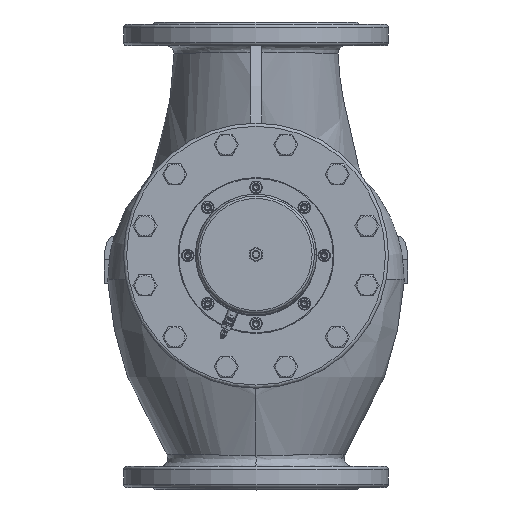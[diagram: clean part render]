
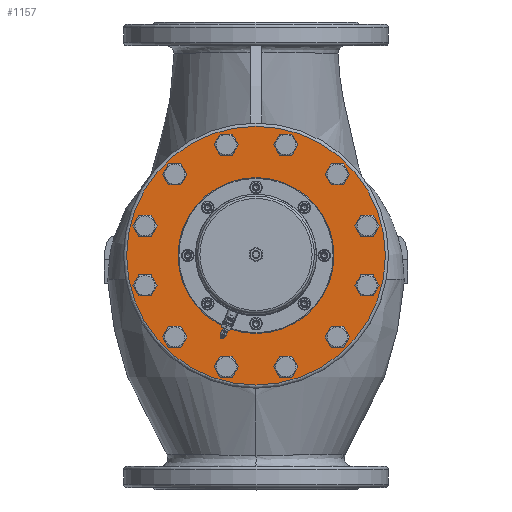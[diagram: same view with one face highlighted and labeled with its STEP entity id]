
A CAD part, top view. The second image highlights one B-rep face of the part: STEP entity #1157.
In plain terms, the highlighted planar face has unit normal (0, 0, 1).
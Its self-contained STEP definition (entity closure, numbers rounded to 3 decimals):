
#1157=ADVANCED_FACE('',(#18928,#18930,#18932,#18934,#18936,#18938,#18940,#18942,
#18944,#18946,#18948,#18950,#18952),#18954,.T.);
#18928=FACE_BOUND('',#18929,.T.);
#18929=EDGE_LOOP('',(#31032));
#18930=FACE_BOUND('',#18931,.T.);
#18931=EDGE_LOOP('',(#31033));
#18932=FACE_BOUND('',#18933,.T.);
#18933=EDGE_LOOP('',(#31034));
#18934=FACE_BOUND('',#18935,.T.);
#18935=EDGE_LOOP('',(#31035));
#18936=FACE_BOUND('',#18937,.T.);
#18937=EDGE_LOOP('',(#31036));
#18938=FACE_BOUND('',#18939,.T.);
#18939=EDGE_LOOP('',(#31037));
#18940=FACE_BOUND('',#18941,.T.);
#18941=EDGE_LOOP('',(#31038));
#18942=FACE_BOUND('',#18943,.T.);
#18943=EDGE_LOOP('',(#31039));
#18944=FACE_BOUND('',#18945,.T.);
#18945=EDGE_LOOP('',(#31040));
#18946=FACE_BOUND('',#18947,.T.);
#18947=EDGE_LOOP('',(#31041));
#18948=FACE_BOUND('',#18949,.T.);
#18949=EDGE_LOOP('',(#31042));
#18950=FACE_BOUND('',#18951,.T.);
#18951=EDGE_LOOP('',(#31043));
#18952=FACE_BOUND('',#18953,.T.);
#18953=EDGE_LOOP('',(#31044));
#18954=PLANE('',#18955);
#18955=AXIS2_PLACEMENT_3D('',#18956,#18957,#18958);
#18956=CARTESIAN_POINT('',(0.,0.,229.));
#18957=DIRECTION('',(0.,0.,1.));
#18958=DIRECTION('',(0.,1.,0.));
#31032=ORIENTED_EDGE('',*,*,#33183,.T.);
#31033=ORIENTED_EDGE('',*,*,#33181,.T.);
#31034=ORIENTED_EDGE('',*,*,#33180,.T.);
#31035=ORIENTED_EDGE('',*,*,#33179,.T.);
#31036=ORIENTED_EDGE('',*,*,#33178,.T.);
#31037=ORIENTED_EDGE('',*,*,#33177,.T.);
#31038=ORIENTED_EDGE('',*,*,#33176,.T.);
#31039=ORIENTED_EDGE('',*,*,#33175,.T.);
#31040=ORIENTED_EDGE('',*,*,#33174,.T.);
#31041=ORIENTED_EDGE('',*,*,#33173,.T.);
#31042=ORIENTED_EDGE('',*,*,#33172,.T.);
#31043=ORIENTED_EDGE('',*,*,#33171,.T.);
#31044=ORIENTED_EDGE('',*,*,#33170,.T.);
#33170=EDGE_CURVE('',#34501,#34501,#34502,.F.);
#33171=EDGE_CURVE('',#34503,#34503,#34504,.F.);
#33172=EDGE_CURVE('',#34505,#34505,#34506,.F.);
#33173=EDGE_CURVE('',#34507,#34507,#34508,.F.);
#33174=EDGE_CURVE('',#34509,#34509,#34510,.F.);
#33175=EDGE_CURVE('',#34511,#34511,#34512,.F.);
#33176=EDGE_CURVE('',#34513,#34513,#34514,.F.);
#33177=EDGE_CURVE('',#34515,#34515,#34516,.F.);
#33178=EDGE_CURVE('',#34517,#34517,#34518,.F.);
#33179=EDGE_CURVE('',#34519,#34519,#34520,.F.);
#33180=EDGE_CURVE('',#34521,#34521,#34522,.F.);
#33181=EDGE_CURVE('',#34523,#34523,#34524,.F.);
#33183=EDGE_CURVE('',#34527,#34527,#34528,.T.);
#34501=VERTEX_POINT('',#40452);
#34502=CIRCLE('',#40453,11.);
#34503=VERTEX_POINT('',#40457);
#34504=CIRCLE('',#40458,11.);
#34505=VERTEX_POINT('',#40462);
#34506=CIRCLE('',#40463,11.);
#34507=VERTEX_POINT('',#40467);
#34508=CIRCLE('',#40468,11.);
#34509=VERTEX_POINT('',#40472);
#34510=CIRCLE('',#40473,11.);
#34511=VERTEX_POINT('',#40477);
#34512=CIRCLE('',#40478,11.);
#34513=VERTEX_POINT('',#40482);
#34514=CIRCLE('',#40483,11.);
#34515=VERTEX_POINT('',#40487);
#34516=CIRCLE('',#40488,11.);
#34517=VERTEX_POINT('',#40492);
#34518=CIRCLE('',#40493,11.);
#34519=VERTEX_POINT('',#40497);
#34520=CIRCLE('',#40498,11.);
#34521=VERTEX_POINT('',#40502);
#34522=CIRCLE('',#40503,11.);
#34523=VERTEX_POINT('',#40507);
#34524=CIRCLE('',#40508,11.);
#34527=VERTEX_POINT('',#40517);
#34528=CIRCLE('',#40518,166.);
#40452=CARTESIAN_POINT('',(-28.65,147.974,229.));
#40453=AXIS2_PLACEMENT_3D('',#40454,#40455,#40456);
#40454=CARTESIAN_POINT('',(-38.176,142.474,229.));
#40455=DIRECTION('',(0.,0.,1.));
#40456=DIRECTION('',(0.866,0.5,0.));
#40457=CARTESIAN_POINT('',(-98.798,113.825,229.));
#40458=AXIS2_PLACEMENT_3D('',#40459,#40460,#40461);
#40459=CARTESIAN_POINT('',(-104.298,104.298,229.));
#40460=DIRECTION('',(0.,0.,1.));
#40461=DIRECTION('',(0.5,0.866,0.));
#40462=CARTESIAN_POINT('',(-142.474,49.176,229.));
#40463=AXIS2_PLACEMENT_3D('',#40464,#40465,#40466);
#40464=CARTESIAN_POINT('',(-142.474,38.176,229.));
#40465=DIRECTION('',(0.,0.,1.));
#40466=DIRECTION('',(0.,1.,0.));
#40467=CARTESIAN_POINT('',(-147.974,-28.65,229.));
#40468=AXIS2_PLACEMENT_3D('',#40469,#40470,#40471);
#40469=CARTESIAN_POINT('',(-142.474,-38.176,229.));
#40470=DIRECTION('',(0.,0.,1.));
#40471=DIRECTION('',(-0.5,0.866,0.));
#40472=CARTESIAN_POINT('',(-113.825,-98.798,229.));
#40473=AXIS2_PLACEMENT_3D('',#40474,#40475,#40476);
#40474=CARTESIAN_POINT('',(-104.298,-104.298,229.));
#40475=DIRECTION('',(0.,0.,1.));
#40476=DIRECTION('',(-0.866,0.5,0.));
#40477=CARTESIAN_POINT('',(-49.176,-142.474,229.));
#40478=AXIS2_PLACEMENT_3D('',#40479,#40480,#40481);
#40479=CARTESIAN_POINT('',(-38.176,-142.474,229.));
#40480=DIRECTION('',(0.,0.,1.));
#40481=DIRECTION('',(-1.,0.,0.));
#40482=CARTESIAN_POINT('',(28.65,-147.974,229.));
#40483=AXIS2_PLACEMENT_3D('',#40484,#40485,#40486);
#40484=CARTESIAN_POINT('',(38.176,-142.474,229.));
#40485=DIRECTION('',(0.,0.,1.));
#40486=DIRECTION('',(-0.866,-0.5,0.));
#40487=CARTESIAN_POINT('',(98.798,-113.825,229.));
#40488=AXIS2_PLACEMENT_3D('',#40489,#40490,#40491);
#40489=CARTESIAN_POINT('',(104.298,-104.298,229.));
#40490=DIRECTION('',(0.,0.,1.));
#40491=DIRECTION('',(-0.5,-0.866,0.));
#40492=CARTESIAN_POINT('',(142.474,-49.176,229.));
#40493=AXIS2_PLACEMENT_3D('',#40494,#40495,#40496);
#40494=CARTESIAN_POINT('',(142.474,-38.176,229.));
#40495=DIRECTION('',(0.,0.,1.));
#40496=DIRECTION('',(0.,-1.,0.));
#40497=CARTESIAN_POINT('',(147.974,28.65,229.));
#40498=AXIS2_PLACEMENT_3D('',#40499,#40500,#40501);
#40499=CARTESIAN_POINT('',(142.474,38.176,229.));
#40500=DIRECTION('',(0.,0.,1.));
#40501=DIRECTION('',(0.5,-0.866,0.));
#40502=CARTESIAN_POINT('',(113.825,98.798,229.));
#40503=AXIS2_PLACEMENT_3D('',#40504,#40505,#40506);
#40504=CARTESIAN_POINT('',(104.298,104.298,229.));
#40505=DIRECTION('',(0.,0.,1.));
#40506=DIRECTION('',(0.866,-0.5,0.));
#40507=CARTESIAN_POINT('',(49.176,142.474,229.));
#40508=AXIS2_PLACEMENT_3D('',#40509,#40510,#40511);
#40509=CARTESIAN_POINT('',(38.176,142.474,229.));
#40510=DIRECTION('',(0.,0.,1.));
#40511=DIRECTION('',(1.,0.,0.));
#40517=CARTESIAN_POINT('',(0.,166.,229.));
#40518=AXIS2_PLACEMENT_3D('',#40519,#40520,#40521);
#40519=CARTESIAN_POINT('',(0.,0.,229.));
#40520=DIRECTION('',(0.,0.,1.));
#40521=DIRECTION('',(0.,1.,0.));
